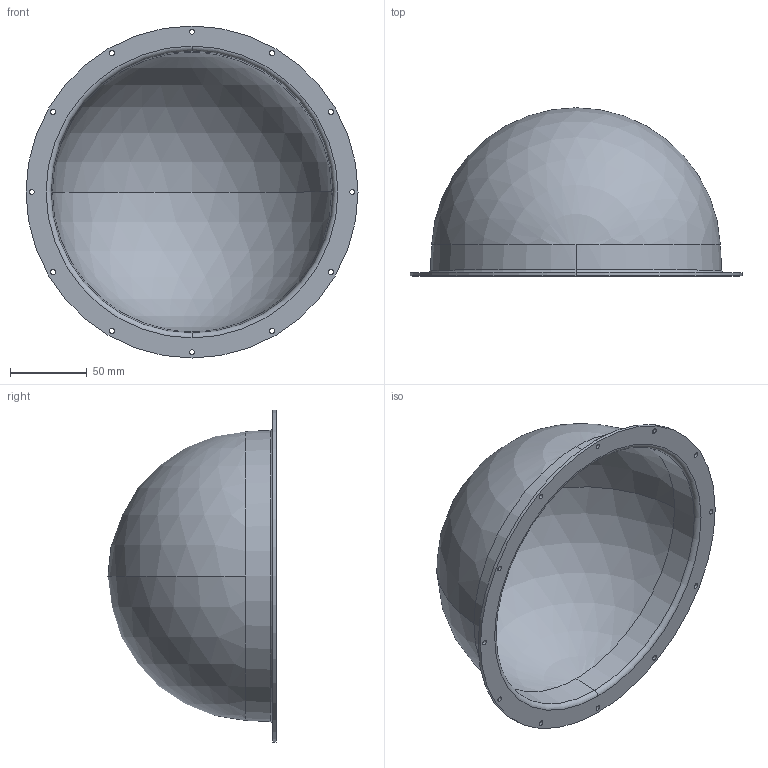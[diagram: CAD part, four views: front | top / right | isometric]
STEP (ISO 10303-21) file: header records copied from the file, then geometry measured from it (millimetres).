
FILE_DESCRIPTION (( 'STEP AP203' ), '1' );
FILE_NAME ('WTE8-P-DOME-R1.STEP', '2017-01-12T19:31:49', ( '' ), ( '' ), 'SwSTEP 2.0', 'SolidWorks 2014', '' );
FILE_SCHEMA (( 'CONFIG_CONTROL_DESIGN' ));
Length unit declared in the file: millimetre
Products named in the file (1): WTE8-P-DOME-R1
Bounding box: 216.54 x 109.7 x 216.54 mm (x, y, z)
Volume: 208940.5 mm3; surface area: 143976.4 mm2
Topology: 1 solids, 1 shells, 40 faces, 106 edges, 70 vertices
Faces by surface type: cylinder 26, torus 4, cone 4, sphere 4, plane 2
Entity records: 1415 total; most frequent: DIRECTION 264, CARTESIAN_POINT 217, ORIENTED_EDGE 212, AXIS2_PLACEMENT_3D 117, EDGE_CURVE 106, CIRCLE 76, VERTEX_POINT 70, EDGE_LOOP 66
